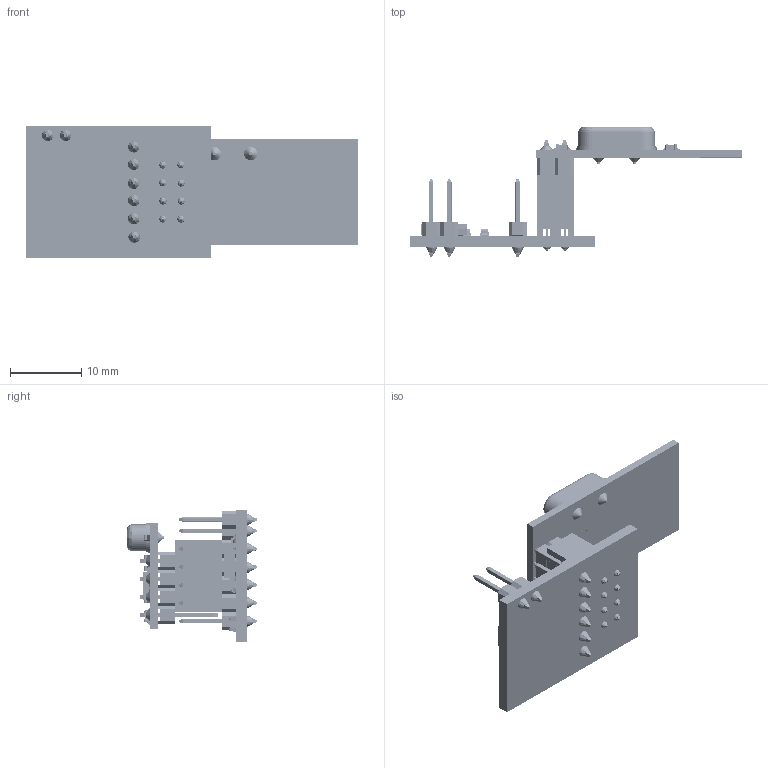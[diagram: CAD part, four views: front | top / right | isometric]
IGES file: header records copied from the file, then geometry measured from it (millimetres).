
Start section: SolidWorks IGES file using analytic representation for surfaces
Global section: file name: C:\Users\alexa\Dropbox\Freelance\2016-05-MotorLeaf\Solidworks\2-Driplet Enclosure\Components\NRF24L01 Power Adapter\NRF24L01_asm.IGS; native system: SolidWorks 2016; preprocessor: SolidWorks 2016; author: alexa; date: 160606.141521; units: millimetre
Bounding box: 46.69 x 18.35 x 18.6 mm (x, y, z)
Surface area: 8357.1 mm2 (no closed solid volume)
Topology: 0 solids, 0 shells, 8715 faces, 59638 edges, 59238 vertices
Faces by surface type: bspline 7163, revolution 1552
